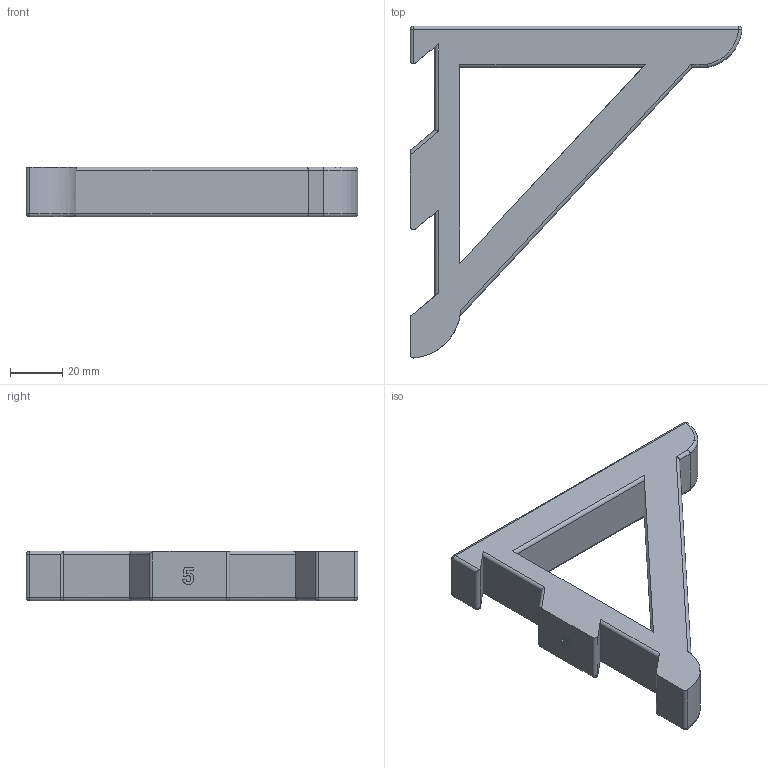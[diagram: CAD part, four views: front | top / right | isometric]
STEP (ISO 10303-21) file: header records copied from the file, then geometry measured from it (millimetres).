
FILE_DESCRIPTION(/* description */ ('STEP AP242','CAx-IF Rec.Pracs.---Representation and Presentation of Product Manufacturing Information (PMI)---4.0---2014-10-13','CAx-IF Rec.Pracs.---3D Tessellated Geometry---0.4---2014-09-14','2;1'),/* implementation_level */ '2;1');
FILE_NAME(/* name */ '677e125a248f357686528cea',/* time_stamp */ '2025-01-08T05:51:22Z',/* author */ (''),/* organization */ (''),/* preprocessor_version */ 'ST-DEVELOPER v20',/* originating_system */ 'ONSHAPE BY PTC INC, 1.191',/* authorisation */ ' ');
FILE_SCHEMA (('AP242_MANAGED_MODEL_BASED_3D_ENGINEERING_MIM_LF { 1 0 10303 442 1 1 4 }'));
Length unit declared in the file: metre
Products named in the file (1): Shelf Bracket-5
Bounding box: 126.94 x 126.95 x 19.05 mm (x, y, z)
Volume: 95155.1 mm3; surface area: 23296.3 mm2
Topology: 1 solids, 1 shells, 86 faces, 218 edges, 126 vertices
Faces by surface type: cylinder 35, plane 26, bspline 13, sphere 9, torus 3
Entity records: 2562 total; most frequent: CARTESIAN_POINT 582, ORIENTED_EDGE 418, DIRECTION 389, EDGE_CURVE 209, AXIS2_PLACEMENT_3D 136, VERTEX_POINT 126, LINE 117, VECTOR 117
